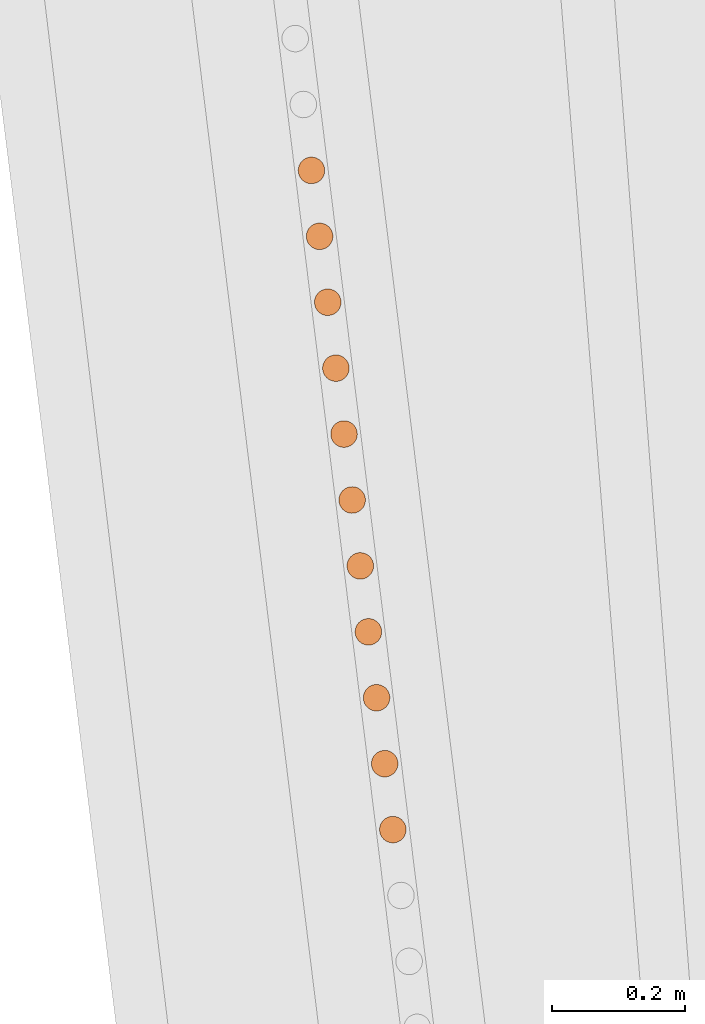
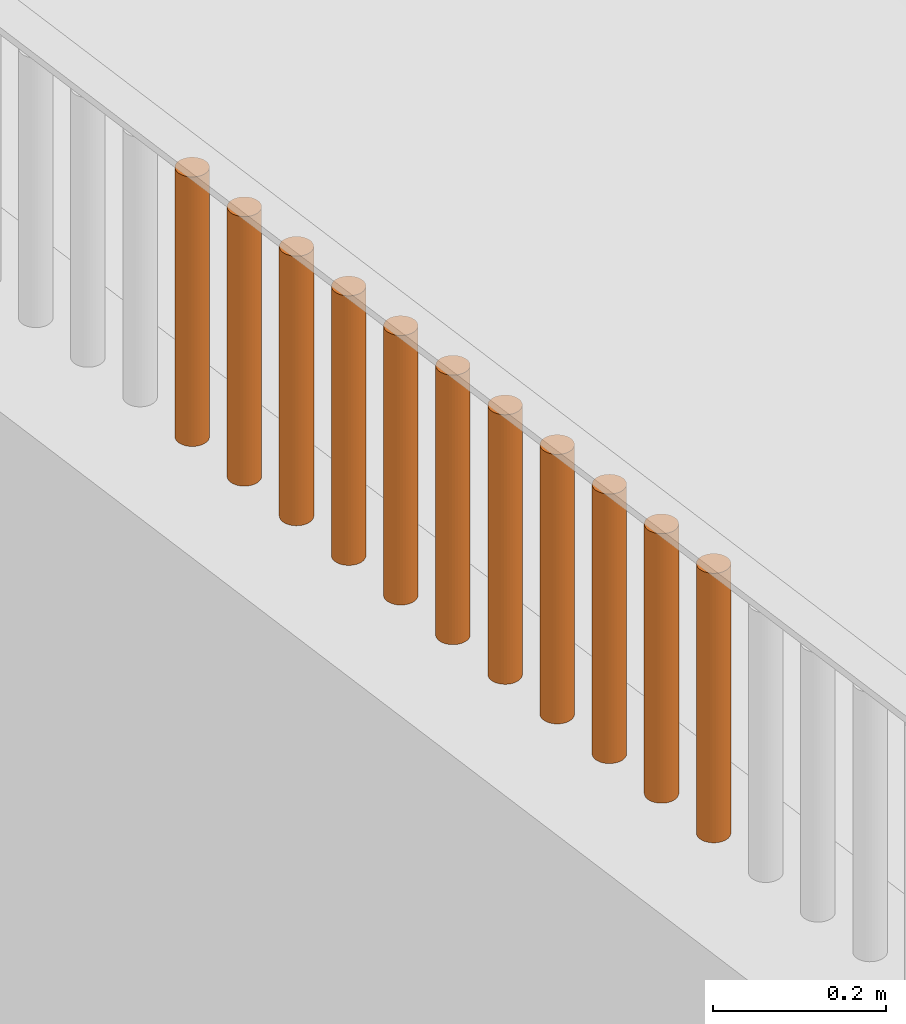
# One storey, part 117 of 1809: 11 proxies, 1 element without a shape of its own.
"""IFC2X3 building model written with IfcOpenShell, lengths in millimetres."""

from ifc_helpers import new_model, entity, si_unit, converted_unit, derived_unit, money_unit, direction, frame, origin_with_axes, place, context, subcontext, project, spatial, faceted_brep, source, transform, mapped, material, type_object, element, aggregate, save


model = new_model("IFC2X3")

# Units and contexts
model_context = context("Model", 3, precision=0.01, world=origin_with_axes(), true_north=direction((0.0, 1.0)))
body_context = subcontext(model_context, "Body", "Model", "MODEL_VIEW")
ifc_project = project(units=[si_unit("LENGTHUNIT", "METRE", prefix="MILLI"), si_unit("AREAUNIT", "SQUARE_METRE"), si_unit("VOLUMEUNIT", "CUBIC_METRE"), converted_unit("PLANEANGLEUNIT", "DEGREE", entity("IfcPlaneAngleMeasure", 0.0174532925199), si_unit("PLANEANGLEUNIT", "RADIAN"), dimensions=[0, 0, 0, 0, 0, 0, 0]), si_unit("SOLIDANGLEUNIT", "STERADIAN"), money_unit("EUR"), converted_unit("TIMEUNIT", "Year", entity("IfcTimeMeasure", 31556926.0), si_unit("TIMEUNIT", "SECOND"), dimensions=[0, 0, 1, 0, 0, 0, 0]), si_unit("MASSUNIT", "GRAM", prefix="KILO"), si_unit("THERMODYNAMICTEMPERATUREUNIT", "DEGREE_CELSIUS"), si_unit("LUMINOUSINTENSITYUNIT", "LUMEN"), si_unit("ENERGYUNIT", "JOULE", prefix="MEGA"), derived_unit("THERMALCONDUCTANCEUNIT", [(si_unit("POWERUNIT", "WATT"), 1), (si_unit("LENGTHUNIT", "METRE"), -1), (si_unit("THERMODYNAMICTEMPERATUREUNIT", "KELVIN"), -1)]), derived_unit("SPECIFICHEATCAPACITYUNIT", [(si_unit("ENERGYUNIT", "JOULE"), 1), (si_unit("MASSUNIT", "GRAM", prefix="KILO"), -1), (si_unit("THERMODYNAMICTEMPERATUREUNIT", "KELVIN"), -1)]), derived_unit("MASSDENSITYUNIT", [(si_unit("MASSUNIT", "GRAM", prefix="KILO"), 1), (si_unit("VOLUMEUNIT", "CUBIC_METRE"), -1)])], contexts=[model_context])

# Site, building, storey
site_placement = place(None, origin_with_axes())
site = spatial("IfcSite", under=ifc_project, at=site_placement, Name="Politse- ja Piirivalveameti ning Päästeameti ühishoone", CompositionType="ELEMENT")
building_placement = place(site_placement, origin_with_axes())
building = spatial("IfcBuilding", under=site, at=building_placement, Name="Politse- ja Piirivalveameti ning Päästeameti ühishoone", CompositionType="ELEMENT")
storey_placement = place(building_placement, origin_with_axes())
storey = spatial("IfcBuildingStorey", under=building, at=storey_placement, Name="Esimene korrus", CompositionType="ELEMENT", Elevation=0.0)

# Proxies
building_element_proxy_type_1 = type_object("IfcBuildingElementProxyType", Name="Railing Type", PredefinedType="NOTDEFINED")
proxy_1_placement = place(storey_placement, frame((-18956.5522504, -53688.4757966, 2100.0), z_axis=(0.0, 0.0, 1.0), x_axis=(1.0, 0.0, 0.0)))
proxy_1 = element("IfcBuildingElementProxy", 1, at=proxy_1_placement, inside=storey, type_object=building_element_proxy_type_1, Name="PIIRDEAED")
ifc_material = material(Name="ET-06_Teras - Konstruktsioon")
building_element_proxy_type_2 = type_object("IfcBuildingElementProxyType", Name="IfcBuildingElementProxy", PredefinedType="NOTDEFINED")
shared_shape_1 = source(origin_with_axes(), body_context, "Body", "Brep", [
    faceted_brep([(0.0, -20.0, 0.0), (3.47296355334, -19.6961550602, 0.0), (3.47296355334, -19.6961550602, 380.000012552), (0.0, -20.0, 380.000012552), (-3.47296355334, -19.6961550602, 0.0), (-6.84040286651, -18.7938524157, 0.0), (-10.0, -17.3205080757, 0.0), (-12.8557521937, -15.3208888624, 0.0), (-15.3208888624, -12.8557521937, 0.0), (-17.3205080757, -10.0, 0.0), (-18.7938524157, -6.84040286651, 0.0), (-19.6961550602, -3.47296355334, 0.0), (-20.0, 0.0, 0.0), (-19.6961550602, 3.47296355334, 0.0), (-18.7938524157, 6.84040286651, 0.0), (-17.3205080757, 10.0, 0.0), (-15.3208888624, 12.8557521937, 0.0), (-12.8557521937, 15.3208888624, 0.0), (-10.0, 17.3205080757, 0.0), (-6.84040286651, 18.7938524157, 0.0), (-3.47296355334, 19.6961550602, 0.0), (0.0, 20.0, 0.0), (3.47296355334, 19.6961550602, 0.0), (6.84040286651, 18.7938524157, 0.0), (10.0, 17.3205080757, 0.0), (12.8557521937, 15.3208888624, 0.0), (15.3208888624, 12.8557521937, 0.0), (17.3205080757, 10.0, 0.0), (18.7938524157, 6.84040286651, 0.0), (19.6961550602, 3.47296355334, 0.0), (20.0, 0.0, 0.0), (19.6961550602, -3.47296355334, 0.0), (18.7938524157, -6.84040286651, 0.0), (17.3205080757, -10.0, 0.0), (15.3208888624, -12.8557521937, 0.0), (12.8557521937, -15.3208888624, 0.0), (10.0, -17.3205080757, 0.0), (6.84040286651, -18.7938524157, 0.0), (6.84040286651, -18.7938524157, 380.000012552), (10.0, -17.3205080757, 380.000012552), (12.8557521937, -15.3208888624, 380.000012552), (15.3208888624, -12.8557521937, 380.000012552), (17.3205080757, -10.0, 380.000012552), (18.7938524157, -6.84040286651, 380.000012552), (19.6961550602, -3.47296355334, 380.000012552), (20.0, 0.0, 380.000012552), (19.6961550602, 3.47296355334, 380.000012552), (18.7938524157, 6.84040286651, 380.000012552), (17.3205080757, 10.0, 380.000012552), (15.3208888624, 12.8557521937, 380.000012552), (12.8557521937, 15.3208888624, 380.000012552), (10.0, 17.3205080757, 380.000012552), (6.84040286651, 18.7938524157, 380.000012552), (3.47296355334, 19.6961550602, 380.000012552), (0.0, 20.0, 380.000012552), (-3.47296355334, 19.6961550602, 380.000012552), (-6.84040286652, 18.7938524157, 380.000012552), (-10.0, 17.3205080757, 380.000012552), (-12.8557521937, 15.3208888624, 380.000012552), (-15.3208888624, 12.8557521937, 380.000012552), (-17.3205080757, 10.0, 380.000012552), (-18.7938524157, 6.84040286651, 380.000012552), (-19.6961550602, 3.47296355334, 380.000012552), (-20.0, 0.0, 380.000012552), (-19.6961550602, -3.47296355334, 380.000012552), (-18.7938524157, -6.84040286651, 380.000012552), (-17.3205080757, -10.0, 380.000012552), (-15.3208888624, -12.8557521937, 380.000012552), (-12.8557521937, -15.3208888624, 380.000012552), (-10.0, -17.3205080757, 380.000012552), (-6.84040286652, -18.7938524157, 380.000012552), (-3.47296355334, -19.6961550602, 380.000012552)], [[[0, 1, 2, 3]], [[0, 4, 5, 6, 7, 8, 9, 10, 11, 12, 13, 14, 15, 16, 17, 18, 19, 20, 21, 22, 23, 24, 25, 26, 27, 28, 29, 30, 31, 32, 33, 34, 35, 36, 37, 1]], [[1, 37, 38, 2]], [[3, 2, 38, 39, 40, 41, 42, 43, 44, 45, 46, 47, 48, 49, 50, 51, 52, 53, 54, 55, 56, 57, 58, 59, 60, 61, 62, 63, 64, 65, 66, 67, 68, 69, 70, 71]], [[4, 0, 3, 71]], [[5, 4, 71, 70]], [[6, 5, 70, 69]], [[7, 6, 69, 68]], [[8, 7, 68, 67]], [[9, 8, 67, 66]], [[10, 9, 66, 65]], [[11, 10, 65, 64]], [[12, 11, 64, 63]], [[13, 12, 63, 62]], [[14, 13, 62, 61]], [[15, 14, 61, 60]], [[16, 15, 60, 59]], [[17, 16, 59, 58]], [[18, 17, 58, 57]], [[19, 18, 57, 56]], [[20, 19, 56, 55]], [[21, 20, 55, 54]], [[22, 21, 54, 53]], [[23, 22, 53, 52]], [[24, 23, 52, 51]], [[25, 24, 51, 50]], [[26, 25, 50, 49]], [[27, 26, 49, 48]], [[28, 27, 48, 47]], [[29, 28, 47, 46]], [[30, 29, 46, 45]], [[31, 30, 45, 44]], [[32, 31, 44, 43]], [[33, 32, 43, 42]], [[34, 33, 42, 41]], [[35, 34, 41, 40]], [[36, 35, 40, 39]], [[37, 36, 39, 38]]]),
])
proxy_2_placement = place(proxy_1_placement, frame((-2334.35284183, 18077.789696, -1.25517001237e-05), z_axis=(0.0, 0.0, 1.0), x_axis=(1.0, 0.0, 0.0)))
proxy_2 = element("IfcBuildingElementProxy", 2, at=proxy_2_placement, type_object=building_element_proxy_type_2, material=ifc_material, Name="BALUSTER - 001", context=body_context, shape_type="MappedRepresentation", body=[
    mapped(shared_shape_1, transform((0.0, 0.0, 0.0), x_axis=(0.992468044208, 0.122503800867, 0.0), y_axis=(-0.122503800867, 0.992468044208, 0.0), z_axis=(0.0, 0.0, 1.0))),
])
shared_shape_2 = source(origin_with_axes(), body_context, "Body", "Brep", [
    faceted_brep([(0.0, -20.0, 0.0), (3.47296355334, -19.6961550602, 0.0), (3.47296355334, -19.6961550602, 380.000012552), (0.0, -20.0, 380.000012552), (-3.47296355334, -19.6961550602, 0.0), (-6.84040286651, -18.7938524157, 0.0), (-10.0, -17.3205080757, 0.0), (-12.8557521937, -15.3208888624, 0.0), (-15.3208888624, -12.8557521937, 0.0), (-17.3205080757, -10.0, 0.0), (-18.7938524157, -6.84040286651, 0.0), (-19.6961550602, -3.47296355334, 0.0), (-20.0, 0.0, 0.0), (-19.6961550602, 3.47296355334, 0.0), (-18.7938524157, 6.84040286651, 0.0), (-17.3205080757, 10.0, 0.0), (-15.3208888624, 12.8557521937, 0.0), (-12.8557521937, 15.3208888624, 0.0), (-10.0, 17.3205080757, 0.0), (-6.84040286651, 18.7938524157, 0.0), (-3.47296355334, 19.6961550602, 0.0), (0.0, 20.0, 0.0), (3.47296355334, 19.6961550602, 0.0), (6.84040286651, 18.7938524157, 0.0), (10.0, 17.3205080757, 0.0), (12.8557521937, 15.3208888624, 0.0), (15.3208888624, 12.8557521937, 0.0), (17.3205080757, 10.0, 0.0), (18.7938524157, 6.84040286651, 0.0), (19.6961550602, 3.47296355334, 0.0), (20.0, 0.0, 0.0), (19.6961550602, -3.47296355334, 0.0), (18.7938524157, -6.84040286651, 0.0), (17.3205080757, -10.0, 0.0), (15.3208888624, -12.8557521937, 0.0), (12.8557521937, -15.3208888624, 0.0), (10.0, -17.3205080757, 0.0), (6.84040286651, -18.7938524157, 0.0), (6.84040286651, -18.7938524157, 380.000012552), (10.0, -17.3205080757, 380.000012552), (12.8557521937, -15.3208888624, 380.000012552), (15.3208888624, -12.8557521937, 380.000012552), (17.3205080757, -10.0, 380.000012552), (18.7938524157, -6.84040286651, 380.000012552), (19.6961550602, -3.47296355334, 380.000012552), (20.0, 0.0, 380.000012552), (19.6961550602, 3.47296355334, 380.000012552), (18.7938524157, 6.84040286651, 380.000012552), (17.3205080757, 10.0, 380.000012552), (15.3208888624, 12.8557521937, 380.000012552), (12.8557521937, 15.3208888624, 380.000012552), (10.0, 17.3205080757, 380.000012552), (6.84040286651, 18.7938524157, 380.000012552), (3.47296355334, 19.6961550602, 380.000012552), (0.0, 20.0, 380.000012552), (-3.47296355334, 19.6961550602, 380.000012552), (-6.84040286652, 18.7938524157, 380.000012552), (-10.0, 17.3205080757, 380.000012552), (-12.8557521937, 15.3208888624, 380.000012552), (-15.3208888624, 12.8557521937, 380.000012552), (-17.3205080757, 10.0, 380.000012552), (-18.7938524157, 6.84040286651, 380.000012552), (-19.6961550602, 3.47296355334, 380.000012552), (-20.0, 0.0, 380.000012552), (-19.6961550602, -3.47296355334, 380.000012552), (-18.7938524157, -6.84040286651, 380.000012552), (-17.3205080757, -10.0, 380.000012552), (-15.3208888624, -12.8557521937, 380.000012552), (-12.8557521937, -15.3208888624, 380.000012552), (-10.0, -17.3205080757, 380.000012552), (-6.84040286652, -18.7938524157, 380.000012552), (-3.47296355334, -19.6961550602, 380.000012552)], [[[0, 1, 2, 3]], [[0, 4, 5, 6, 7, 8, 9, 10, 11, 12, 13, 14, 15, 16, 17, 18, 19, 20, 21, 22, 23, 24, 25, 26, 27, 28, 29, 30, 31, 32, 33, 34, 35, 36, 37, 1]], [[1, 37, 38, 2]], [[3, 2, 38, 39, 40, 41, 42, 43, 44, 45, 46, 47, 48, 49, 50, 51, 52, 53, 54, 55, 56, 57, 58, 59, 60, 61, 62, 63, 64, 65, 66, 67, 68, 69, 70, 71]], [[4, 0, 3, 71]], [[5, 4, 71, 70]], [[6, 5, 70, 69]], [[7, 6, 69, 68]], [[8, 7, 68, 67]], [[9, 8, 67, 66]], [[10, 9, 66, 65]], [[11, 10, 65, 64]], [[12, 11, 64, 63]], [[13, 12, 63, 62]], [[14, 13, 62, 61]], [[15, 14, 61, 60]], [[16, 15, 60, 59]], [[17, 16, 59, 58]], [[18, 17, 58, 57]], [[19, 18, 57, 56]], [[20, 19, 56, 55]], [[21, 20, 55, 54]], [[22, 21, 54, 53]], [[23, 22, 53, 52]], [[24, 23, 52, 51]], [[25, 24, 51, 50]], [[26, 25, 50, 49]], [[27, 26, 49, 48]], [[28, 27, 48, 47]], [[29, 28, 47, 46]], [[30, 29, 46, 45]], [[31, 30, 45, 44]], [[32, 31, 44, 43]], [[33, 32, 43, 42]], [[34, 33, 42, 41]], [[35, 34, 41, 40]], [[36, 35, 40, 39]], [[37, 36, 39, 38]]]),
])
proxy_3_placement = place(proxy_1_placement, frame((-2309.857432, 17879.3394331, -1.25517001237e-05), z_axis=(0.0, 0.0, 1.0), x_axis=(1.0, 0.0, 0.0)))
proxy_3 = element("IfcBuildingElementProxy", 3, at=proxy_3_placement, type_object=building_element_proxy_type_2, material=ifc_material, Name="BALUSTER - 001", context=body_context, shape_type="MappedRepresentation", body=[
    mapped(shared_shape_2, transform((0.0, 0.0, 0.0), x_axis=(0.992468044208, 0.122503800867, 0.0), y_axis=(-0.122503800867, 0.992468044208, 0.0), z_axis=(0.0, 0.0, 1.0))),
])
proxy_4_placement = place(proxy_1_placement, frame((-2346.60054674, 18177.0148274, -1.25517001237e-05), z_axis=(0.0, 0.0, 1.0), x_axis=(1.0, 0.0, 0.0)))
proxy_4 = element("IfcBuildingElementProxy", 4, at=proxy_4_placement, type_object=building_element_proxy_type_2, material=ifc_material, Name="BALUSTER - 001", context=body_context, shape_type="MappedRepresentation", body=[
    mapped(shared_shape_2, transform((0.0, 0.0, 0.0), x_axis=(0.992468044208, 0.122503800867, 0.0), y_axis=(-0.122503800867, 0.992468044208, 0.0), z_axis=(0.0, 0.0, 1.0))),
])
proxy_5_placement = place(proxy_1_placement, frame((-2371.09595657, 18375.4650903, -1.25517001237e-05), z_axis=(0.0, 0.0, 1.0), x_axis=(1.0, 0.0, 0.0)))
proxy_5 = element("IfcBuildingElementProxy", 5, at=proxy_5_placement, type_object=building_element_proxy_type_2, material=ifc_material, Name="BALUSTER - 001", context=body_context, shape_type="MappedRepresentation", body=[
    mapped(shared_shape_2, transform((0.0, 0.0, 0.0), x_axis=(0.992468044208, 0.122503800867, 0.0), y_axis=(-0.122503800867, 0.992468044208, 0.0), z_axis=(0.0, 0.0, 1.0))),
])
proxy_6_placement = place(proxy_1_placement, frame((-2383.34366148, 18474.6902217, -1.25517001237e-05), z_axis=(0.0, 0.0, 1.0), x_axis=(1.0, 0.0, 0.0)))
proxy_6 = element("IfcBuildingElementProxy", 6, at=proxy_6_placement, type_object=building_element_proxy_type_2, material=ifc_material, Name="BALUSTER - 001", context=body_context, shape_type="MappedRepresentation", body=[
    mapped(shared_shape_2, transform((0.0, 0.0, 0.0), x_axis=(0.992468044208, 0.122503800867, 0.0), y_axis=(-0.122503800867, 0.992468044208, 0.0), z_axis=(0.0, 0.0, 1.0))),
])
proxy_7_placement = place(proxy_1_placement, frame((-2407.83907131, 18673.1404845, -1.25517001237e-05), z_axis=(0.0, 0.0, 1.0), x_axis=(1.0, 0.0, 0.0)))
proxy_7 = element("IfcBuildingElementProxy", 7, at=proxy_7_placement, type_object=building_element_proxy_type_2, material=ifc_material, Name="BALUSTER - 001", context=body_context, shape_type="MappedRepresentation", body=[
    mapped(shared_shape_2, transform((0.0, 0.0, 0.0), x_axis=(0.992468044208, 0.122503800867, 0.0), y_axis=(-0.122503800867, 0.992468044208, 0.0), z_axis=(0.0, 0.0, 1.0))),
])
proxy_8_placement = place(proxy_1_placement, frame((-2420.08677622, 18772.365616, -1.25517001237e-05), z_axis=(0.0, 0.0, 1.0), x_axis=(1.0, 0.0, 0.0)))
proxy_8 = element("IfcBuildingElementProxy", 8, at=proxy_8_placement, type_object=building_element_proxy_type_2, material=ifc_material, Name="BALUSTER - 001", context=body_context, shape_type="MappedRepresentation", body=[
    mapped(shared_shape_2, transform((0.0, 0.0, 0.0), x_axis=(0.992468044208, 0.122503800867, 0.0), y_axis=(-0.122503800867, 0.992468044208, 0.0), z_axis=(0.0, 0.0, 1.0))),
])
shared_shape_3 = source(origin_with_axes(), body_context, "Body", "Brep", [
    faceted_brep([(0.0, -20.0, 0.0), (3.47296355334, -19.6961550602, 0.0), (3.47296355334, -19.6961550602, 380.000012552), (0.0, -20.0, 380.000012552), (-3.47296355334, -19.6961550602, 0.0), (-6.84040286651, -18.7938524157, 0.0), (-10.0, -17.3205080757, 0.0), (-12.8557521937, -15.3208888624, 0.0), (-15.3208888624, -12.8557521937, 0.0), (-17.3205080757, -10.0, 0.0), (-18.7938524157, -6.84040286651, 0.0), (-19.6961550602, -3.47296355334, 0.0), (-20.0, 0.0, 0.0), (-19.6961550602, 3.47296355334, 0.0), (-18.7938524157, 6.84040286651, 0.0), (-17.3205080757, 10.0, 0.0), (-15.3208888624, 12.8557521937, 0.0), (-12.8557521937, 15.3208888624, 0.0), (-10.0, 17.3205080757, 0.0), (-6.84040286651, 18.7938524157, 0.0), (-3.47296355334, 19.6961550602, 0.0), (0.0, 20.0, 0.0), (3.47296355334, 19.6961550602, 0.0), (6.84040286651, 18.7938524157, 0.0), (10.0, 17.3205080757, 0.0), (12.8557521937, 15.3208888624, 0.0), (15.3208888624, 12.8557521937, 0.0), (17.3205080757, 10.0, 0.0), (18.7938524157, 6.84040286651, 0.0), (19.6961550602, 3.47296355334, 0.0), (20.0, 0.0, 0.0), (19.6961550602, -3.47296355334, 0.0), (18.7938524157, -6.84040286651, 0.0), (17.3205080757, -10.0, 0.0), (15.3208888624, -12.8557521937, 0.0), (12.8557521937, -15.3208888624, 0.0), (10.0, -17.3205080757, 0.0), (6.84040286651, -18.7938524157, 0.0), (6.84040286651, -18.7938524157, 380.000012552), (10.0, -17.3205080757, 380.000012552), (12.8557521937, -15.3208888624, 380.000012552), (15.3208888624, -12.8557521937, 380.000012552), (17.3205080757, -10.0, 380.000012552), (18.7938524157, -6.84040286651, 380.000012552), (19.6961550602, -3.47296355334, 380.000012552), (20.0, 0.0, 380.000012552), (19.6961550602, 3.47296355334, 380.000012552), (18.7938524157, 6.84040286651, 380.000012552), (17.3205080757, 10.0, 380.000012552), (15.3208888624, 12.8557521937, 380.000012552), (12.8557521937, 15.3208888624, 380.000012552), (10.0, 17.3205080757, 380.000012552), (6.84040286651, 18.7938524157, 380.000012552), (3.47296355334, 19.6961550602, 380.000012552), (0.0, 20.0, 380.000012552), (-3.47296355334, 19.6961550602, 380.000012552), (-6.84040286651, 18.7938524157, 380.000012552), (-10.0, 17.3205080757, 380.000012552), (-12.8557521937, 15.3208888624, 380.000012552), (-15.3208888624, 12.8557521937, 380.000012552), (-17.3205080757, 10.0, 380.000012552), (-18.7938524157, 6.84040286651, 380.000012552), (-19.6961550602, 3.47296355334, 380.000012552), (-20.0, 0.0, 380.000012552), (-19.6961550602, -3.47296355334, 380.000012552), (-18.7938524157, -6.84040286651, 380.000012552), (-17.3205080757, -10.0, 380.000012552), (-15.3208888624, -12.8557521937, 380.000012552), (-12.8557521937, -15.3208888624, 380.000012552), (-10.0, -17.3205080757, 380.000012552), (-6.84040286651, -18.7938524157, 380.000012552), (-3.47296355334, -19.6961550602, 380.000012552)], [[[0, 1, 2, 3]], [[0, 4, 5, 6, 7, 8, 9, 10, 11, 12, 13, 14, 15, 16, 17, 18, 19, 20, 21, 22, 23, 24, 25, 26, 27, 28, 29, 30, 31, 32, 33, 34, 35, 36, 37, 1]], [[1, 37, 38, 2]], [[3, 2, 38, 39, 40, 41, 42, 43, 44, 45, 46, 47, 48, 49, 50, 51, 52, 53, 54, 55, 56, 57, 58, 59, 60, 61, 62, 63, 64, 65, 66, 67, 68, 69, 70, 71]], [[4, 0, 3, 71]], [[5, 4, 71, 70]], [[6, 5, 70, 69]], [[7, 6, 69, 68]], [[8, 7, 68, 67]], [[9, 8, 67, 66]], [[10, 9, 66, 65]], [[11, 10, 65, 64]], [[12, 11, 64, 63]], [[13, 12, 63, 62]], [[14, 13, 62, 61]], [[15, 14, 61, 60]], [[16, 15, 60, 59]], [[17, 16, 59, 58]], [[18, 17, 58, 57]], [[19, 18, 57, 56]], [[20, 19, 56, 55]], [[21, 20, 55, 54]], [[22, 21, 54, 53]], [[23, 22, 53, 52]], [[24, 23, 52, 51]], [[25, 24, 51, 50]], [[26, 25, 50, 49]], [[27, 26, 49, 48]], [[28, 27, 48, 47]], [[29, 28, 47, 46]], [[30, 29, 46, 45]], [[31, 30, 45, 44]], [[32, 31, 44, 43]], [[33, 32, 43, 42]], [[34, 33, 42, 41]], [[35, 34, 41, 40]], [[36, 35, 40, 39]], [[37, 36, 39, 38]]]),
])
proxy_9_placement = place(proxy_1_placement, frame((-2322.10513692, 17978.5645646, -1.25517001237e-05), z_axis=(0.0, 0.0, 1.0), x_axis=(1.0, 0.0, 0.0)))
proxy_9 = element("IfcBuildingElementProxy", 9, at=proxy_9_placement, type_object=building_element_proxy_type_2, material=ifc_material, Name="BALUSTER - 001", context=body_context, shape_type="MappedRepresentation", body=[
    mapped(shared_shape_3, transform((0.0, 0.0, 0.0), x_axis=(0.992468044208, 0.122503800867, 0.0), y_axis=(-0.122503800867, 0.992468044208, 0.0), z_axis=(0.0, 0.0, 1.0))),
])
shared_shape_4 = source(origin_with_axes(), body_context, "Body", "Brep", [
    faceted_brep([(0.0, -20.0, 0.0), (3.47296355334, -19.6961550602, 0.0), (3.47296355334, -19.6961550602, 380.000012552), (0.0, -20.0, 380.000012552), (-3.47296355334, -19.6961550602, 0.0), (-6.84040286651, -18.7938524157, 0.0), (-10.0, -17.3205080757, 0.0), (-12.8557521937, -15.3208888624, 0.0), (-15.3208888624, -12.8557521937, 0.0), (-17.3205080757, -10.0, 0.0), (-18.7938524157, -6.84040286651, 0.0), (-19.6961550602, -3.47296355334, 0.0), (-20.0, 0.0, 0.0), (-19.6961550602, 3.47296355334, 0.0), (-18.7938524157, 6.84040286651, 0.0), (-17.3205080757, 10.0, 0.0), (-15.3208888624, 12.8557521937, 0.0), (-12.8557521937, 15.3208888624, 0.0), (-10.0, 17.3205080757, 0.0), (-6.84040286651, 18.7938524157, 0.0), (-3.47296355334, 19.6961550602, 0.0), (0.0, 20.0, 0.0), (3.47296355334, 19.6961550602, 0.0), (6.84040286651, 18.7938524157, 0.0), (10.0, 17.3205080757, 0.0), (12.8557521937, 15.3208888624, 0.0), (15.3208888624, 12.8557521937, 0.0), (17.3205080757, 10.0, 0.0), (18.7938524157, 6.84040286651, 0.0), (19.6961550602, 3.47296355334, 0.0), (20.0, 0.0, 0.0), (19.6961550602, -3.47296355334, 0.0), (18.7938524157, -6.84040286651, 0.0), (17.3205080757, -10.0, 0.0), (15.3208888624, -12.8557521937, 0.0), (12.8557521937, -15.3208888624, 0.0), (10.0, -17.3205080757, 0.0), (6.84040286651, -18.7938524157, 0.0), (6.84040286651, -18.7938524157, 380.000012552), (10.0, -17.3205080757, 380.000012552), (12.8557521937, -15.3208888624, 380.000012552), (15.3208888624, -12.8557521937, 380.000012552), (17.3205080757, -10.0, 380.000012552), (18.7938524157, -6.84040286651, 380.000012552), (19.6961550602, -3.47296355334, 380.000012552), (20.0, 0.0, 380.000012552), (19.6961550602, 3.47296355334, 380.000012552), (18.7938524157, 6.84040286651, 380.000012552), (17.3205080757, 10.0, 380.000012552), (15.3208888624, 12.8557521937, 380.000012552), (12.8557521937, 15.3208888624, 380.000012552), (10.0, 17.3205080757, 380.000012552), (6.84040286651, 18.7938524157, 380.000012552), (3.47296355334, 19.6961550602, 380.000012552), (0.0, 20.0, 380.000012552), (-3.47296355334, 19.6961550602, 380.000012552), (-6.84040286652, 18.7938524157, 380.000012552), (-10.0, 17.3205080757, 380.000012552), (-12.8557521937, 15.3208888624, 380.000012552), (-15.3208888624, 12.8557521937, 380.000012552), (-17.3205080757, 10.0, 380.000012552), (-18.7938524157, 6.84040286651, 380.000012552), (-19.6961550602, 3.47296355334, 380.000012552), (-20.0, 0.0, 380.000012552), (-19.6961550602, -3.47296355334, 380.000012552), (-18.7938524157, -6.84040286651, 380.000012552), (-17.3205080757, -10.0, 380.000012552), (-15.3208888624, -12.8557521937, 380.000012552), (-12.8557521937, -15.3208888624, 380.000012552), (-10.0, -17.3205080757, 380.000012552), (-6.84040286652, -18.7938524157, 380.000012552), (-3.47296355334, -19.6961550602, 380.000012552)], [[[0, 1, 2, 3]], [[0, 4, 5, 6, 7, 8, 9, 10, 11, 12, 13, 14, 15, 16, 17, 18, 19, 20, 21, 22, 23, 24, 25, 26, 27, 28, 29, 30, 31, 32, 33, 34, 35, 36, 37, 1]], [[1, 37, 38, 2]], [[3, 2, 38, 39, 40, 41, 42, 43, 44, 45, 46, 47, 48, 49, 50, 51, 52, 53, 54, 55, 56, 57, 58, 59, 60, 61, 62, 63, 64, 65, 66, 67, 68, 69, 70, 71]], [[4, 0, 3, 71]], [[5, 4, 71, 70]], [[6, 5, 70, 69]], [[7, 6, 69, 68]], [[8, 7, 68, 67]], [[9, 8, 67, 66]], [[10, 9, 66, 65]], [[11, 10, 65, 64]], [[12, 11, 64, 63]], [[13, 12, 63, 62]], [[14, 13, 62, 61]], [[15, 14, 61, 60]], [[16, 15, 60, 59]], [[17, 16, 59, 58]], [[18, 17, 58, 57]], [[19, 18, 57, 56]], [[20, 19, 56, 55]], [[21, 20, 55, 54]], [[22, 21, 54, 53]], [[23, 22, 53, 52]], [[24, 23, 52, 51]], [[25, 24, 51, 50]], [[26, 25, 50, 49]], [[27, 26, 49, 48]], [[28, 27, 48, 47]], [[29, 28, 47, 46]], [[30, 29, 46, 45]], [[31, 30, 45, 44]], [[32, 31, 44, 43]], [[33, 32, 43, 42]], [[34, 33, 42, 41]], [[35, 34, 41, 40]], [[36, 35, 40, 39]], [[37, 36, 39, 38]]]),
])
proxy_10_placement = place(proxy_1_placement, frame((-2358.84825166, 18276.2399588, -1.25517001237e-05), z_axis=(0.0, 0.0, 1.0), x_axis=(1.0, 0.0, 0.0)))
proxy_10 = element("IfcBuildingElementProxy", 10, at=proxy_10_placement, type_object=building_element_proxy_type_2, material=ifc_material, Name="BALUSTER - 001", context=body_context, shape_type="MappedRepresentation", body=[
    mapped(shared_shape_4, transform((0.0, 0.0, 0.0), x_axis=(0.992468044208, 0.122503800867, 0.0), y_axis=(-0.122503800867, 0.992468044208, 0.0), z_axis=(0.0, 0.0, 1.0))),
])
proxy_11_placement = place(proxy_1_placement, frame((-2395.5913664, 18573.9153531, -1.25517001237e-05), z_axis=(0.0, 0.0, 1.0), x_axis=(1.0, 0.0, 0.0)))
proxy_11 = element("IfcBuildingElementProxy", 11, at=proxy_11_placement, type_object=building_element_proxy_type_2, material=ifc_material, Name="BALUSTER - 001", context=body_context, shape_type="MappedRepresentation", body=[
    mapped(shared_shape_4, transform((0.0, 0.0, 0.0), x_axis=(0.992468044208, 0.122503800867, 0.0), y_axis=(-0.122503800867, 0.992468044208, 0.0), z_axis=(0.0, 0.0, 1.0))),
])
shared_shape_5 = source(origin_with_axes(), body_context, "Body", "Brep", [
    faceted_brep([(0.0, -20.0, 0.0), (3.47296355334, -19.6961550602, 0.0), (3.47296355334, -19.6961550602, 380.000012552), (0.0, -20.0, 380.000012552), (-3.47296355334, -19.6961550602, 0.0), (-6.84040286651, -18.7938524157, 0.0), (-10.0, -17.3205080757, 0.0), (-12.8557521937, -15.3208888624, 0.0), (-15.3208888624, -12.8557521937, 0.0), (-17.3205080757, -10.0, 0.0), (-18.7938524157, -6.84040286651, 0.0), (-19.6961550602, -3.47296355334, 0.0), (-20.0, 0.0, 0.0), (-19.6961550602, 3.47296355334, 0.0), (-18.7938524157, 6.84040286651, 0.0), (-17.3205080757, 10.0, 0.0), (-15.3208888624, 12.8557521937, 0.0), (-12.8557521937, 15.3208888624, 0.0), (-10.0, 17.3205080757, 0.0), (-6.84040286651, 18.7938524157, 0.0), (-3.47296355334, 19.6961550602, 0.0), (0.0, 20.0, 0.0), (3.47296355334, 19.6961550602, 0.0), (6.84040286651, 18.7938524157, 0.0), (10.0, 17.3205080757, 0.0), (12.8557521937, 15.3208888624, 0.0), (15.3208888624, 12.8557521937, 0.0), (17.3205080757, 10.0, 0.0), (18.7938524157, 6.84040286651, 0.0), (19.6961550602, 3.47296355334, 0.0), (20.0, 0.0, 0.0), (19.6961550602, -3.47296355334, 0.0), (18.7938524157, -6.84040286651, 0.0), (17.3205080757, -10.0, 0.0), (15.3208888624, -12.8557521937, 0.0), (12.8557521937, -15.3208888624, 0.0), (10.0, -17.3205080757, 0.0), (6.84040286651, -18.7938524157, 0.0), (6.84040286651, -18.7938524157, 380.000012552), (10.0, -17.3205080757, 380.000012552), (12.8557521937, -15.3208888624, 380.000012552), (15.3208888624, -12.8557521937, 380.000012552), (17.3205080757, -10.0, 380.000012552), (18.7938524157, -6.84040286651, 380.000012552), (19.6961550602, -3.47296355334, 380.000012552), (20.0, 0.0, 380.000012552), (19.6961550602, 3.47296355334, 380.000012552), (18.7938524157, 6.84040286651, 380.000012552), (17.3205080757, 10.0, 380.000012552), (15.3208888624, 12.8557521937, 380.000012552), (12.8557521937, 15.3208888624, 380.000012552), (10.0, 17.3205080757, 380.000012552), (6.84040286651, 18.7938524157, 380.000012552), (3.47296355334, 19.6961550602, 380.000012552), (0.0, 20.0, 380.000012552), (-3.47296355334, 19.6961550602, 380.000012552), (-6.84040286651, 18.7938524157, 380.000012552), (-10.0, 17.3205080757, 380.000012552), (-12.8557521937, 15.3208888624, 380.000012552), (-15.3208888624, 12.8557521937, 380.000012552), (-17.3205080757, 10.0, 380.000012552), (-18.7938524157, 6.84040286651, 380.000012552), (-19.6961550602, 3.47296355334, 380.000012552), (-20.0, 0.0, 380.000012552), (-19.6961550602, -3.47296355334, 380.000012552), (-18.7938524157, -6.84040286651, 380.000012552), (-17.3205080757, -10.0, 380.000012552), (-15.3208888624, -12.8557521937, 380.000012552), (-12.8557521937, -15.3208888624, 380.000012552), (-10.0, -17.3205080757, 380.000012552), (-6.84040286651, -18.7938524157, 380.000012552), (-3.47296355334, -19.6961550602, 380.000012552)], [[[0, 1, 2, 3]], [[0, 4, 5, 6, 7, 8, 9, 10, 11, 12, 13, 14, 15, 16, 17, 18, 19, 20, 21, 22, 23, 24, 25, 26, 27, 28, 29, 30, 31, 32, 33, 34, 35, 36, 37, 1]], [[1, 37, 38, 2]], [[3, 2, 38, 39, 40, 41, 42, 43, 44, 45, 46, 47, 48, 49, 50, 51, 52, 53, 54, 55, 56, 57, 58, 59, 60, 61, 62, 63, 64, 65, 66, 67, 68, 69, 70, 71]], [[4, 0, 3, 71]], [[5, 4, 71, 70]], [[6, 5, 70, 69]], [[7, 6, 69, 68]], [[8, 7, 68, 67]], [[9, 8, 67, 66]], [[10, 9, 66, 65]], [[11, 10, 65, 64]], [[12, 11, 64, 63]], [[13, 12, 63, 62]], [[14, 13, 62, 61]], [[15, 14, 61, 60]], [[16, 15, 60, 59]], [[17, 16, 59, 58]], [[18, 17, 58, 57]], [[19, 18, 57, 56]], [[20, 19, 56, 55]], [[21, 20, 55, 54]], [[22, 21, 54, 53]], [[23, 22, 53, 52]], [[24, 23, 52, 51]], [[25, 24, 51, 50]], [[26, 25, 50, 49]], [[27, 26, 49, 48]], [[28, 27, 48, 47]], [[29, 28, 47, 46]], [[30, 29, 46, 45]], [[31, 30, 45, 44]], [[32, 31, 44, 43]], [[33, 32, 43, 42]], [[34, 33, 42, 41]], [[35, 34, 41, 40]], [[36, 35, 40, 39]], [[37, 36, 39, 38]]]),
])
proxy_12_placement = place(proxy_1_placement, frame((-2432.33448114, 18871.5907474, -1.25517001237e-05), z_axis=(0.0, 0.0, 1.0), x_axis=(1.0, 0.0, 0.0)))
proxy_12 = element("IfcBuildingElementProxy", 12, at=proxy_12_placement, type_object=building_element_proxy_type_2, material=ifc_material, Name="BALUSTER - 001", context=body_context, shape_type="MappedRepresentation", body=[
    mapped(shared_shape_5, transform((0.0, 0.0, 0.0), x_axis=(0.992468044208, 0.122503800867, 0.0), y_axis=(-0.122503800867, 0.992468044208, 0.0), z_axis=(0.0, 0.0, 1.0))),
])
aggregate(proxy_1, [proxy_3, proxy_9, proxy_2, proxy_4, proxy_10, proxy_5, proxy_6, proxy_11, proxy_7, proxy_8, proxy_12])

save(model, "model.ifc")
